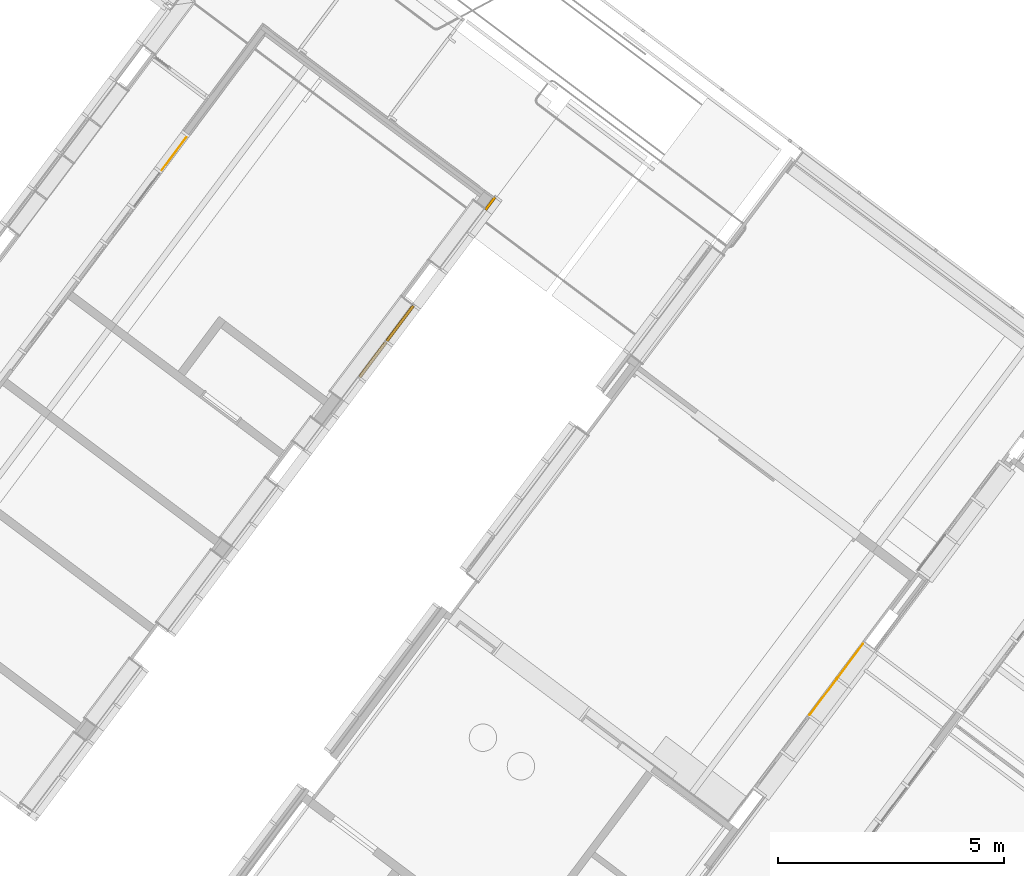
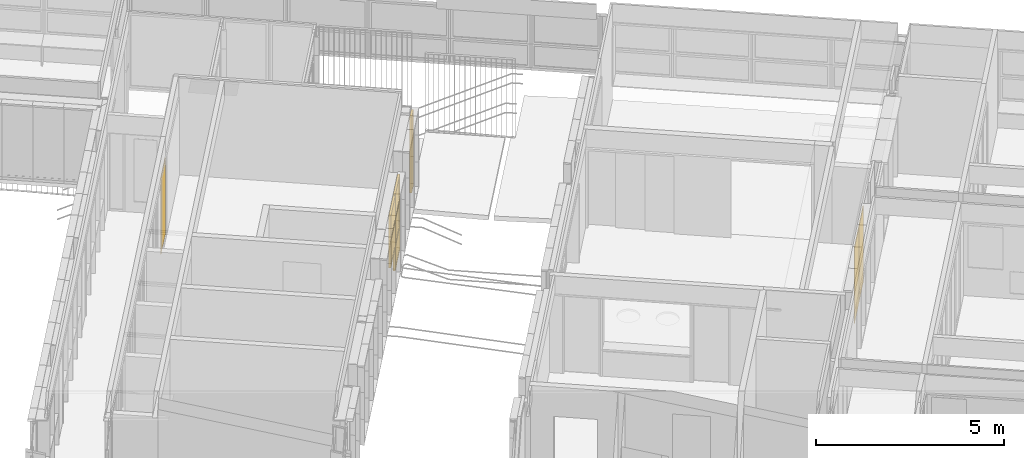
# One storey, part 167 of 243: 8 windows, 1 door, 3 elements without a shape of their own.
"""IFC2X3 building model written with IfcOpenShell, lengths in metres."""

from ifc_helpers import new_model, entity, si_unit, converted_unit, derived_unit, direction, frame, origin, origin_2d_with_axis, place, context, subcontext, project, spatial, rectangle, extrude, faceted_brep, source, transform, mapped, material, material_list, type_object, type_shapes, element, aggregate, save


model = new_model("IFC2X3")

# Units and contexts
model_context = context("Model", 3, precision=1e-05, world=origin(), true_north=direction((6.123031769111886e-17, 1.0)))
body_context = subcontext(model_context, "Body", "Model", "MODEL_VIEW")
ifc_project = project(units=[si_unit("LENGTHUNIT", "METRE"), si_unit("AREAUNIT", "SQUARE_METRE"), si_unit("VOLUMEUNIT", "CUBIC_METRE"), converted_unit("PLANEANGLEUNIT", "DEGREE", entity("IfcRatioMeasure", 0.017453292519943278), si_unit("PLANEANGLEUNIT", "RADIAN"), dimensions=[0, 0, 0, 0, 0, 0, 0]), si_unit("MASSUNIT", "GRAM", prefix="KILO"), derived_unit("MASSDENSITYUNIT", [(si_unit("MASSUNIT", "GRAM", prefix="KILO"), 1), (si_unit("LENGTHUNIT", "METRE"), -3)]), derived_unit("IONCONCENTRATIONUNIT", [(si_unit("MASSUNIT", "GRAM", prefix="KILO"), 1), (si_unit("LENGTHUNIT", "METRE"), -3)]), derived_unit("MOMENTOFINERTIAUNIT", [(si_unit("LENGTHUNIT", "METRE"), 4)]), si_unit("TIMEUNIT", "SECOND"), si_unit("FREQUENCYUNIT", "HERTZ"), si_unit("THERMODYNAMICTEMPERATUREUNIT", "DEGREE_CELSIUS"), derived_unit("THERMALTRANSMITTANCEUNIT", [(si_unit("MASSUNIT", "GRAM", prefix="KILO"), 1), (si_unit("THERMODYNAMICTEMPERATUREUNIT", "KELVIN"), -1), (si_unit("TIMEUNIT", "SECOND"), -3)]), derived_unit("THERMALCONDUCTANCEUNIT", [(si_unit("MASSUNIT", "GRAM", prefix="KILO"), 1), (si_unit("THERMODYNAMICTEMPERATUREUNIT", "KELVIN"), -1), (si_unit("TIMEUNIT", "SECOND"), -3), (si_unit("LENGTHUNIT", "METRE"), 1)]), derived_unit("VOLUMETRICFLOWRATEUNIT", [(si_unit("LENGTHUNIT", "METRE"), 3), (si_unit("TIMEUNIT", "SECOND"), -1)]), derived_unit("MASSFLOWRATEUNIT", [(si_unit("MASSUNIT", "GRAM", prefix="KILO"), 1), (si_unit("TIMEUNIT", "SECOND"), -1)]), derived_unit("ROTATIONALFREQUENCYUNIT", [(si_unit("TIMEUNIT", "SECOND"), -1)]), si_unit("ELECTRICCURRENTUNIT", "AMPERE"), si_unit("ELECTRICVOLTAGEUNIT", "VOLT"), si_unit("POWERUNIT", "WATT"), si_unit("FORCEUNIT", "NEWTON", prefix="KILO"), si_unit("ILLUMINANCEUNIT", "LUX"), si_unit("LUMINOUSFLUXUNIT", "LUMEN"), si_unit("LUMINOUSINTENSITYUNIT", "CANDELA"), derived_unit("USERDEFINED", [(si_unit("MASSUNIT", "GRAM", prefix="KILO"), -1), (si_unit("LENGTHUNIT", "METRE"), -2), (si_unit("TIMEUNIT", "SECOND"), 3), (si_unit("LUMINOUSFLUXUNIT", "LUMEN"), 1)]), derived_unit("USERDEFINED", [(si_unit("MASSUNIT", "GRAM", prefix="KILO"), 1), (si_unit("TIMEUNIT", "SECOND"), -3), (si_unit("LENGTHUNIT", "METRE"), 3), (si_unit("ELECTRICCURRENTUNIT", "AMPERE"), -2)]), derived_unit("SOUNDPOWERUNIT", [(si_unit("MASSUNIT", "GRAM", prefix="KILO"), 1), (si_unit("TIMEUNIT", "SECOND"), -3), (si_unit("LENGTHUNIT", "METRE"), 2)]), derived_unit("SOUNDPRESSUREUNIT", [(si_unit("MASSUNIT", "GRAM", prefix="KILO"), 1), (si_unit("LENGTHUNIT", "METRE"), -1), (si_unit("TIMEUNIT", "SECOND"), -2)]), derived_unit("LINEARVELOCITYUNIT", [(si_unit("LENGTHUNIT", "METRE"), 1), (si_unit("TIMEUNIT", "SECOND"), -1)]), si_unit("PRESSUREUNIT", "PASCAL"), derived_unit("USERDEFINED", [(si_unit("MASSUNIT", "GRAM", prefix="KILO"), 1), (si_unit("LENGTHUNIT", "METRE"), -2), (si_unit("TIMEUNIT", "SECOND"), -2)]), derived_unit("LINEARFORCEUNIT", [(si_unit("MASSUNIT", "GRAM", prefix="KILO"), 1), (si_unit("TIMEUNIT", "SECOND"), -2)]), derived_unit("PLANARFORCEUNIT", [(si_unit("MASSUNIT", "GRAM", prefix="KILO"), 1), (si_unit("LENGTHUNIT", "METRE"), -1), (si_unit("TIMEUNIT", "SECOND"), -2)]), derived_unit("SPECIFICHEATCAPACITYUNIT", [(si_unit("THERMODYNAMICTEMPERATUREUNIT", "KELVIN"), -1), (si_unit("LENGTHUNIT", "METRE"), 2), (si_unit("TIMEUNIT", "SECOND"), -2)]), derived_unit("HEATINGVALUEUNIT", [(si_unit("LENGTHUNIT", "METRE"), 2), (si_unit("TIMEUNIT", "SECOND"), -2)]), derived_unit("VAPORPERMEABILITYUNIT", [(si_unit("LENGTHUNIT", "METRE"), -1), (si_unit("TIMEUNIT", "SECOND"), 1)]), derived_unit("DYNAMICVISCOSITYUNIT", [(si_unit("MASSUNIT", "GRAM", prefix="KILO"), 1), (si_unit("TIMEUNIT", "SECOND"), -1), (si_unit("LENGTHUNIT", "METRE"), -1)]), derived_unit("THERMALEXPANSIONCOEFFICIENTUNIT", [(si_unit("THERMODYNAMICTEMPERATUREUNIT", "KELVIN"), -1)]), derived_unit("MODULUSOFELASTICITYUNIT", [(si_unit("MASSUNIT", "GRAM", prefix="KILO"), 1), (si_unit("LENGTHUNIT", "METRE"), -1), (si_unit("TIMEUNIT", "SECOND"), -2)]), derived_unit("ISOTHERMALMOISTURECAPACITYUNIT", [(si_unit("LENGTHUNIT", "METRE"), 3), (si_unit("MASSUNIT", "GRAM", prefix="KILO"), -1)]), derived_unit("MOISTUREDIFFUSIVITYUNIT", [(si_unit("TIMEUNIT", "SECOND"), -1), (si_unit("LENGTHUNIT", "METRE"), 2)])], contexts=[model_context])

# Site, building, storey
site_placement = place(None, frame((0.0, 0.0, 235.0), z_axis=(0.0, 0.0, 1.0), x_axis=(-0.7996477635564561, 0.6004693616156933, 0.0)))
site = spatial("IfcSite", under=ifc_project, at=site_placement, Name="Default", CompositionType="ELEMENT")
building_placement = place(site_placement, origin())
building = spatial("IfcBuilding", under=site, at=building_placement, CompositionType="ELEMENT")
storey_placement = place(building_placement, origin())
storey = spatial("IfcBuildingStorey", under=building, at=storey_placement, Name="P0- Escola", CompositionType="ELEMENT", Elevation=0.0)

# Curtain wall, window
curtain_wall_type_1 = type_object("IfcCurtainWallType", Name="Muro cortina:MC- INT- a2", PredefinedType="NOTDEFINED")
curtain_wall_1_placement = place(storey_placement, origin())
curtain_wall_1 = element("IfcCurtainWall", 1, at=curtain_wall_1_placement, inside=storey, type_object=curtain_wall_type_1, Name="Muro cortina:MC- INT- a2", ObjectType="Muro cortina:MC- INT- a2")
ifc_material_1 = material(Name="_Vidre")
window_style_1 = type_object("IfcWindowStyle", Name="MC- Fusta- vidre fix:MC- Fusta- vidre fix", ConstructionType="NOTDEFINED", OperationType="NOTDEFINED", ParameterTakesPrecedence=False, Sizeable=False, material=ifc_material_1)
shared_shape_1 = source(origin(), body_context, "Body", "SweptSolid", [
    extrude(rectangle(XDim=0.015999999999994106, YDim=0.9699999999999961, at=origin_2d_with_axis()), frame((0.0, 0.0, 0.0), z_axis=(0.0, 0.0, 1.0), x_axis=(0.0, -1.0, 0.0)), (0.0, 0.0, 1.0), 2.475),
])
type_shapes(window_style_1, [shared_shape_1])
window_1_placement = place(curtain_wall_1_placement, frame((34.62014768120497, -33.91519175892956, 0.045000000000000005), z_axis=(0.0, 0.0, 1.0), x_axis=(0.0, -1.0, 0.0)))
window_1 = element("IfcWindow", 2, at=window_1_placement, type_object=window_style_1, material=ifc_material_1, Name="MC- Fusta- vidre fix:MC- Fusta- vidre fix", ObjectType="MC- Fusta- vidre fix:MC- Fusta- vidre fix", OverallHeight=2.475, OverallWidth=0.9699999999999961, context=body_context, shape_type="MappedRepresentation", body=[
    mapped(shared_shape_1, transform((0.0, 0.0, 0.0), scale=1.0)),
])
aggregate(curtain_wall_1, [window_1])

# Curtain wall, windows
curtain_wall_type_2 = type_object("IfcCurtainWallType", Name="Muro cortina:MC- INT- a4", PredefinedType="NOTDEFINED")
curtain_wall_2_placement = place(storey_placement, origin())
curtain_wall_2 = element("IfcCurtainWall", 3, at=curtain_wall_2_placement, inside=storey, type_object=curtain_wall_type_2, Name="Muro cortina:MC- INT- a4", ObjectType="Muro cortina:MC- INT- a4")
window_style_2 = type_object("IfcWindowStyle", Name="MC- Fusta- vidre fix:MC- Fusta- vidre fix", ConstructionType="NOTDEFINED", OperationType="NOTDEFINED", ParameterTakesPrecedence=False, Sizeable=False, material=ifc_material_1)
shared_shape_2 = source(origin(), body_context, "Body", "SweptSolid", [
    extrude(rectangle(XDim=0.9399999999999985, YDim=0.015999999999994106, at=origin_2d_with_axis()), frame((0.0, 0.0, 0.0), z_axis=(0.0, 0.0, 1.0), x_axis=(-1.0, 0.0, 0.0)), (0.0, 0.0, 1.0), 2.475),
])
type_shapes(window_style_2, [shared_shape_2])
window_2_placement = place(curtain_wall_2_placement, frame((15.95514768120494, -33.92769085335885, 0.045), z_axis=(0.0, 0.0, 1.0), x_axis=(0.0, 1.0, 0.0)))
window_2 = element("IfcWindow", 4, at=window_2_placement, type_object=window_style_2, material=ifc_material_1, Name="MC- Fusta- vidre fix:MC- Fusta- vidre fix", ObjectType="MC- Fusta- vidre fix:MC- Fusta- vidre fix", OverallHeight=2.475, OverallWidth=0.9399999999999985, context=body_context, shape_type="MappedRepresentation", body=[
    mapped(shared_shape_2, transform((0.0, 0.0, 0.0), scale=1.0)),
])
window_style_3 = type_object("IfcWindowStyle", Name="MC- Fusta- vidre fix:MC- Fusta- vidre fix", ConstructionType="NOTDEFINED", OperationType="NOTDEFINED", ParameterTakesPrecedence=False, Sizeable=False, material=ifc_material_1)
shared_shape_3 = source(origin(), body_context, "Body", "SweptSolid", [
    extrude(rectangle(XDim=0.9974990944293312, YDim=0.015999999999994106, at=origin_2d_with_axis()), frame((0.0, 0.0, 0.0), z_axis=(0.0, 0.0, 1.0), x_axis=(-1.0, 0.0, 0.0)), (0.0, 0.0, 1.0), 2.475),
])
type_shapes(window_style_3, [shared_shape_3])
window_3_placement = place(curtain_wall_2_placement, frame((15.955147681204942, -32.928941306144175, 0.045), z_axis=(0.0, 0.0, 1.0), x_axis=(0.0, 1.0, 0.0)))
window_3 = element("IfcWindow", 5, at=window_3_placement, type_object=window_style_3, material=ifc_material_1, Name="MC- Fusta- vidre fix:MC- Fusta- vidre fix", ObjectType="MC- Fusta- vidre fix:MC- Fusta- vidre fix", OverallHeight=2.475, OverallWidth=0.9974990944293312, context=body_context, shape_type="MappedRepresentation", body=[
    mapped(shared_shape_3, transform((0.0, 0.0, 0.0), scale=1.0)),
])
aggregate(curtain_wall_2, [window_2, window_3])

# Curtain wall, windows, door
curtain_wall_type_3 = type_object("IfcCurtainWallType", Name="Muro cortina:MC- EXT- MC2", PredefinedType="NOTDEFINED")
curtain_wall_3_placement = place(storey_placement, origin())
curtain_wall_3 = element("IfcCurtainWall", 6, at=curtain_wall_3_placement, inside=storey, type_object=curtain_wall_type_3, Name="Muro cortina:MC- EXT- MC2", ObjectType="Muro cortina:MC- EXT- MC2")
ifc_material_2 = material(Name="_Alumini- T1- Perfil")
ifc_material_list_1 = material_list([ifc_material_1, ifc_material_2])
window_style_4 = type_object("IfcWindowStyle", Name="MC- Alu- Conjunt vidre fix- 62x60 cm:MC- Alu- Conjunt vidre fix- 62x60 cm", ConstructionType="NOTDEFINED", OperationType="NOTDEFINED", ParameterTakesPrecedence=False, Sizeable=False, material=ifc_material_list_1)
shared_shape_4 = source(origin(), body_context, "Body", "Brep", [
    faceted_brep([(0.4361932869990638, -0.007600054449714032, 0.048806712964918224), (0.4361932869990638, -0.03160022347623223, 0.048806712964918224), (-0.4361932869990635, -0.03160022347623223, 0.048806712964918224), (-0.4361932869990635, -0.007600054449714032, 0.048806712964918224), (0.4361932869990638, -0.007600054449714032, 0.7387000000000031), (-0.4361932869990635, -0.007600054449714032, 0.7387000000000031), (-0.4361932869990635, -0.03160022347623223, 0.7387000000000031), (0.4361932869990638, -0.03160022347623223, 0.7387000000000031)], [[[0, 1, 2, 3]], [[4, 0, 3, 5]], [[5, 3, 2, 6]], [[6, 2, 1, 7]], [[7, 1, 0, 4]], [[4, 5, 6, 7]]]),
    faceted_brep([(0.48499999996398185, -0.05999999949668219, 0.7877000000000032), (0.48499999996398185, -0.05999999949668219, 0.0), (0.48499999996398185, 0.0, 0.0), (0.48499999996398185, 0.0, 0.787700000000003), (-0.48499999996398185, 0.0, 0.7877000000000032), (-0.48499999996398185, 0.0, 0.0), (0.4221931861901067, 0.0, 0.7248931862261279), (-0.42219318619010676, 0.0, 0.724893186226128), (-0.4221931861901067, 0.0, 0.0628068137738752), (0.4221931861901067, 0.0, 0.06280681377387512), (-0.48499999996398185, -0.05999999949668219, 0.0), (-0.48499999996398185, -0.05999999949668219, 0.7877000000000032), (-0.42219603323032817, -0.05999999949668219, 0.7248960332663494), (0.42219603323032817, -0.05999999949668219, 0.7248960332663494), (0.42219603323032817, -0.05999999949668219, 0.0628039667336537), (-0.42219603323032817, -0.05999999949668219, 0.0628039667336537), (0.4221960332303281, -0.03160022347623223, 0.7248960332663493), (0.42219603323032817, -0.03160022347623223, 0.0628039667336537), (-0.42219603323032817, -0.03160022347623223, 0.06280396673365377), (-0.42219603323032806, -0.03160022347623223, 0.7248960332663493), (-0.43619328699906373, -0.03160022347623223, 0.738893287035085), (0.43619328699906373, -0.03160022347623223, 0.738893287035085), (0.43619328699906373, -0.03160022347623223, 0.048806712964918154), (-0.43619328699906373, -0.03160022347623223, 0.04880671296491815), (0.43619328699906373, -0.007600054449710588, 0.738893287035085), (0.43619328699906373, -0.007600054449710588, 0.04880671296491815), (-0.43619328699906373, -0.007600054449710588, 0.048806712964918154), (-0.43619328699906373, -0.007600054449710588, 0.738893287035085), (-0.42219318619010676, -0.007600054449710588, 0.724893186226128), (0.42219318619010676, -0.007600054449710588, 0.724893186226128), (0.42219318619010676, -0.007600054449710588, 0.06280681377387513), (-0.42219318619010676, -0.007600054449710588, 0.06280681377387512)], [[[0, 1, 2, 3]], [[4, 3, 2, 5], [6, 7, 8, 9]], [[1, 10, 5, 2]], [[0, 11, 10, 1], [12, 13, 14, 15]], [[16, 17, 14, 13]], [[17, 18, 15, 14]], [[16, 19, 18, 17], [20, 21, 22, 23]], [[24, 25, 22, 21]], [[25, 26, 23, 22]], [[24, 27, 26, 25], [28, 29, 30, 31]], [[6, 9, 30, 29]], [[9, 8, 31, 30]], [[10, 11, 4, 5]], [[18, 19, 12, 15]], [[26, 27, 20, 23]], [[8, 7, 28, 31]], [[11, 0, 3, 4]], [[19, 16, 13, 12]], [[27, 24, 21, 20]], [[7, 6, 29, 28]]], outer=[[True], [True, False], [True], [True, False], [True], [True], [False, True], [True], [True], [True, False], [True], [True], [True], [True], [True], [True], [True], [True], [True], [True]]),
])
type_shapes(window_style_4, [shared_shape_4])
window_4_placement = place(curtain_wall_3_placement, frame((28.34514768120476, -33.91519175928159, 0.03229999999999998), z_axis=(0.0, 0.0, 1.0), x_axis=(0.0, 1.0, 0.0)))
window_4 = element("IfcWindow", 7, at=window_4_placement, type_object=window_style_4, material=ifc_material_list_1, Name="MC- Alu- Conjunt vidre fix- 62x60 cm:MC- Alu- Conjunt vidre fix- 62x60 cm", ObjectType="MC- Alu- Conjunt vidre fix- 62x60 cm:MC- Alu- Conjunt vidre fix- 62x60 cm", OverallHeight=0.7877000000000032, OverallWidth=0.9699999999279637, context=body_context, shape_type="MappedRepresentation", body=[
    mapped(shared_shape_4, transform((0.0, 0.0, 0.0), scale=1.0)),
])
window_style_5 = type_object("IfcWindowStyle", Name="MC- Alu- Conjunt finestra basculant- 68x68 cm:MC- Alu- Conjunt finestra basculant- 68x68 cm", ConstructionType="NOTDEFINED", OperationType="NOTDEFINED", ParameterTakesPrecedence=False, Sizeable=False, material=ifc_material_list_1)
shared_shape_5 = source(origin(), body_context, "Body", "Brep", [
    faceted_brep([(0.43291170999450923, -0.03559830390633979, 0.051999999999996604), (-0.43291170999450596, -0.03559830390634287, 0.051999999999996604), (-0.43291170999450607, -0.011598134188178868, 0.051999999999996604), (0.43291170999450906, -0.011598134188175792, 0.051999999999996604), (0.43291170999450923, -0.035598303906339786, 0.8228027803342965), (0.43291170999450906, -0.011598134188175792, 0.8228027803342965), (-0.43291170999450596, -0.011598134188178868, 0.8228027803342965), (-0.43291170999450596, -0.03559830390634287, 0.8228027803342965)], [[[0, 1, 2, 3]], [[4, 0, 3, 5]], [[5, 3, 2, 6]], [[6, 2, 1, 7]], [[7, 1, 0, 4]], [[4, 5, 6, 7]]]),
    faceted_brep([(-0.4172108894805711, -0.009998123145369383, 0.8071019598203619), (-0.4172108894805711, -0.00999812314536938, 0.06789804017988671), (-0.4172108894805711, -0.007998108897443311, 0.06789804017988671), (-0.4172108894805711, -0.007998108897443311, 0.8071019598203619), (-0.44610892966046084, -0.007998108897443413, 0.8360000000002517), (0.44610892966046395, -0.007998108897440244, 0.8360000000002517), (0.44610892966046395, -0.007998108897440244, 0.03899999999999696), (-0.44610892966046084, -0.007998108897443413, 0.03899999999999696), (0.4172108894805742, -0.007998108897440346, 0.8071019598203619), (0.4172108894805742, -0.007998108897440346, 0.06789804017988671), (0.4172108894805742, -0.009998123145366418, 0.06789804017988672), (0.4172108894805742, -0.009998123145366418, 0.8071019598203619), (0.4329117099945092, -0.00999812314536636, 0.8228027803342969), (-0.43291170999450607, -0.009998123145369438, 0.8228027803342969), (-0.43291170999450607, -0.009998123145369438, 0.05219721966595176), (0.4329117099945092, -0.00999812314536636, 0.052197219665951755), (-0.4329117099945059, -0.04079986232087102, 0.8228027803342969), (-0.4329117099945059, -0.04079986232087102, 0.052197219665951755), (0.4329117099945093, -0.04079986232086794, 0.05219721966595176), (0.4329117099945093, -0.04079986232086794, 0.8228027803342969), (0.41721088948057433, -0.040799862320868, 0.8071019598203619), (-0.41721088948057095, -0.04079986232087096, 0.8071019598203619), (-0.41721088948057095, -0.04079986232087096, 0.06789804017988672), (0.41721088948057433, -0.040799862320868, 0.06789804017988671), (-0.4172108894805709, -0.06800005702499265, 0.8071019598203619), (-0.4172108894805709, -0.06800005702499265, 0.06789804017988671), (0.4172108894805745, -0.0680000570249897, 0.06789804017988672), (0.4172108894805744, -0.0680000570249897, 0.8071019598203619), (0.4636128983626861, -0.06800005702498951, 0.8535039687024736), (-0.4636128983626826, -0.06800005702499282, 0.8535039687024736), (-0.4636128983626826, -0.06800005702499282, 0.021496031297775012), (0.4636128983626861, -0.06800005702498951, 0.021496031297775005), (-0.4636128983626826, -0.0645000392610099, 0.8535039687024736), (-0.4636128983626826, -0.06450003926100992, 0.021496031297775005), (0.4636128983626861, -0.06450003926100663, 0.021496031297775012), (0.4636128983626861, -0.06450003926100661, 0.8535039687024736), (0.44610892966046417, -0.06450003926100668, 0.8360000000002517), (-0.4461089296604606, -0.06450003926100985, 0.8360000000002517), (-0.4461089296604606, -0.06450003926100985, 0.03899999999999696), (0.44610892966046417, -0.06450003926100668, 0.038999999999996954)], [[[0, 1, 2, 3]], [[4, 5, 6, 7], [8, 3, 2, 9]], [[1, 10, 9, 2]], [[0, 11, 10, 1], [12, 13, 14, 15]], [[16, 17, 14, 13]], [[17, 18, 15, 14]], [[16, 19, 18, 17], [20, 21, 22, 23]], [[24, 25, 22, 21]], [[25, 26, 23, 22]], [[24, 27, 26, 25], [28, 29, 30, 31]], [[32, 33, 30, 29]], [[33, 34, 31, 30]], [[32, 35, 34, 33], [36, 37, 38, 39]], [[4, 7, 38, 37]], [[7, 6, 39, 38]], [[10, 11, 8, 9]], [[18, 19, 12, 15]], [[26, 27, 20, 23]], [[34, 35, 28, 31]], [[6, 5, 36, 39]], [[11, 0, 3, 8]], [[19, 16, 13, 12]], [[27, 24, 21, 20]], [[35, 32, 29, 28]], [[5, 4, 37, 36]]], outer=[[True], [True, False], [True], [False, True], [True], [True], [True, False], [True], [True], [False, True], [True], [True], [True, False], [True], [True], [True], [True], [True], [True], [True], [True], [True], [True], [True], [True]]),
    faceted_brep([(0.42219318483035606, 0.0, 0.8121931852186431), (0.42219318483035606, 0.0, 0.06280681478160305), (0.42219318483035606, -0.0040000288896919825, 0.06280681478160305), (0.42219318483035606, -0.0040000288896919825, 0.8121931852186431), (-0.42219318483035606, -0.0040000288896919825, 0.8121931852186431), (-0.42219318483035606, -0.0040000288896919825, 0.06280681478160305), (0.4575998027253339, -0.0040000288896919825, 0.8475998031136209), (-0.4575998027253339, -0.0040000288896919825, 0.8475998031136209), (-0.4575998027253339, -0.0040000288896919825, 0.027400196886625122), (0.4575998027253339, -0.0040000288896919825, 0.02740019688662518), (-0.42219318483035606, 0.0, 0.06280681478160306), (-0.42219318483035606, 0.0, 0.8121931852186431), (-0.48499999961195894, 0.0, 0.875000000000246), (0.48499999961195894, 0.0, 0.875000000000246), (0.48499999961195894, 0.0, 0.0), (-0.48499999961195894, 0.0, 0.0), (0.48499999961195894, -0.05999999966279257, 0.875000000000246), (0.48499999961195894, -0.05999999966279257, 0.0), (-0.48499999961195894, -0.05999999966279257, 0.0), (-0.48499999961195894, -0.05999999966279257, 0.875000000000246), (-0.4575998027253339, -0.05999999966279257, 0.8475998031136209), (0.4575998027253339, -0.05999999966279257, 0.8475998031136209), (0.4575998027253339, -0.05999999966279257, 0.027400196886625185), (-0.4575998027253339, -0.05999999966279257, 0.02740019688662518)], [[[0, 1, 2, 3]], [[4, 3, 2, 5], [6, 7, 8, 9]], [[1, 10, 5, 2]], [[0, 11, 10, 1], [12, 13, 14, 15]], [[16, 17, 14, 13]], [[17, 18, 15, 14]], [[16, 19, 18, 17], [20, 21, 22, 23]], [[6, 9, 22, 21]], [[9, 8, 23, 22]], [[10, 11, 4, 5]], [[18, 19, 12, 15]], [[8, 7, 20, 23]], [[11, 0, 3, 4]], [[19, 16, 13, 12]], [[7, 6, 21, 20]]], outer=[[True], [False, True], [True], [False, True], [True], [True], [True, False], [True], [True], [True], [True], [True], [True], [True], [True]]),
])
type_shapes(window_style_5, [shared_shape_5])
window_5_placement = place(curtain_wall_3_placement, frame((28.34514768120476, -32.915191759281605, 0.8200000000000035), z_axis=(0.0, 0.0, 1.0), x_axis=(0.0, 1.0, 0.0)))
window_5 = element("IfcWindow", 8, at=window_5_placement, type_object=window_style_5, material=ifc_material_list_1, Name="MC- Alu- Conjunt finestra basculant- 68x68 cm:MC- Alu- Conjunt finestra basculant- 68x68 cm", ObjectType="MC- Alu- Conjunt finestra basculant- 68x68 cm:MC- Alu- Conjunt finestra basculant- 68x68 cm", OverallHeight=0.8750000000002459, OverallWidth=0.9699999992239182, context=body_context, shape_type="MappedRepresentation", body=[
    mapped(shared_shape_5, transform((0.0, 0.0, 0.0), scale=1.0)),
])
window_6_placement = place(curtain_wall_3_placement, frame((28.34514768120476, -33.91519175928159, 0.8200000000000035), z_axis=(0.0, 0.0, 1.0), x_axis=(0.0, 1.0, 0.0)))
window_6 = element("IfcWindow", 9, at=window_6_placement, type_object=window_style_5, material=ifc_material_list_1, Name="MC- Alu- Conjunt finestra basculant- 68x68 cm:MC- Alu- Conjunt finestra basculant- 68x68 cm", ObjectType="MC- Alu- Conjunt finestra basculant- 68x68 cm:MC- Alu- Conjunt finestra basculant- 68x68 cm", OverallHeight=0.8750000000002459, OverallWidth=0.9699999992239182, context=body_context, shape_type="MappedRepresentation", body=[
    mapped(shared_shape_5, transform((0.0, 0.0, 0.0), scale=1.0)),
])
window_style_6 = type_object("IfcWindowStyle", Name="MC- Alu- Conjunt finestra basculant- 68x68 cm:MC- Alu- Conjunt finestra basculant- 68x68 cm", ConstructionType="NOTDEFINED", OperationType="NOTDEFINED", ParameterTakesPrecedence=False, Sizeable=False, material=ifc_material_list_1)
shared_shape_6 = source(origin(), body_context, "Body", "Brep", [
    faceted_brep([(0.432911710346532, -0.03559830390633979, 0.051999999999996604), (-0.43291171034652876, -0.03559830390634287, 0.051999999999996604), (-0.4329117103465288, -0.011598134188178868, 0.051999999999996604), (0.43291171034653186, -0.011598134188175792, 0.051999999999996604), (0.432911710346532, -0.035598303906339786, 0.7565527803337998), (0.43291171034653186, -0.011598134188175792, 0.7565527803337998), (-0.43291171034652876, -0.011598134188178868, 0.7565527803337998), (-0.43291171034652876, -0.03559830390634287, 0.7565527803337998)], [[[0, 1, 2, 3]], [[4, 0, 3, 5]], [[5, 3, 2, 6]], [[6, 2, 1, 7]], [[7, 1, 0, 4]], [[4, 5, 6, 7]]]),
    faceted_brep([(-0.41721088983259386, -0.009998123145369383, 0.7408519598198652), (-0.41721088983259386, -0.00999812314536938, 0.06789804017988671), (-0.41721088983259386, -0.007998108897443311, 0.06789804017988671), (-0.41721088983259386, -0.007998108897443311, 0.7408519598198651), (-0.4461089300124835, -0.007998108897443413, 0.7697499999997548), (0.44610893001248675, -0.007998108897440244, 0.7697499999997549), (0.4461089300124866, -0.007998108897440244, 0.03899999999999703), (-0.44610893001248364, -0.007998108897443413, 0.03899999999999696), (0.41721088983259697, -0.007998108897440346, 0.7408519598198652), (0.41721088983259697, -0.007998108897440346, 0.06789804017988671), (0.41721088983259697, -0.009998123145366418, 0.06789804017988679), (0.41721088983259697, -0.009998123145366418, 0.7408519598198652), (0.4329117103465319, -0.00999812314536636, 0.7565527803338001), (-0.4329117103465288, -0.009998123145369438, 0.7565527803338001), (-0.4329117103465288, -0.009998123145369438, 0.05219721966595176), (0.4329117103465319, -0.00999812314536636, 0.052197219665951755), (-0.4329117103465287, -0.04079986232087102, 0.7565527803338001), (-0.4329117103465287, -0.04079986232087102, 0.052197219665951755), (0.4329117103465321, -0.04079986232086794, 0.05219721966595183), (0.4329117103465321, -0.04079986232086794, 0.7565527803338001), (0.41721088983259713, -0.040799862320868, 0.7408519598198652), (-0.41721088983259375, -0.04079986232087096, 0.7408519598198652), (-0.41721088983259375, -0.04079986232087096, 0.06789804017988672), (0.41721088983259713, -0.040799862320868, 0.06789804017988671), (-0.4172108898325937, -0.06800005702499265, 0.7408519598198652), (-0.4172108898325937, -0.06800005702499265, 0.06789804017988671), (0.41721088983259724, -0.0680000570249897, 0.06789804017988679), (0.4172108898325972, -0.0680000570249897, 0.7408519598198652), (0.4636128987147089, -0.06800005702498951, 0.7872539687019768), (-0.46361289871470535, -0.06800005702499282, 0.7872539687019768), (-0.46361289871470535, -0.06800005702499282, 0.021496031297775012), (0.4636128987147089, -0.06800005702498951, 0.021496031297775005), (-0.46361289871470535, -0.0645000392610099, 0.7872539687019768), (-0.46361289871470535, -0.06450003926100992, 0.021496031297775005), (0.4636128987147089, -0.06450003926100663, 0.02149603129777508), (0.4636128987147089, -0.06450003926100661, 0.7872539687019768), (0.4461089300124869, -0.06450003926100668, 0.7697499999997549), (-0.4461089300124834, -0.06450003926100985, 0.7697499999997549), (-0.4461089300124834, -0.06450003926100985, 0.03899999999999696), (0.4461089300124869, -0.06450003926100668, 0.038999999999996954)], [[[0, 1, 2, 3]], [[4, 5, 6, 7], [8, 3, 2, 9]], [[1, 10, 9, 2]], [[0, 11, 10, 1], [12, 13, 14, 15]], [[16, 17, 14, 13]], [[17, 18, 15, 14]], [[16, 19, 18, 17], [20, 21, 22, 23]], [[24, 25, 22, 21]], [[25, 26, 23, 22]], [[24, 27, 26, 25], [28, 29, 30, 31]], [[32, 33, 30, 29]], [[33, 34, 31, 30]], [[32, 35, 34, 33], [36, 37, 38, 39]], [[4, 7, 38, 37]], [[7, 6, 39, 38]], [[10, 11, 8, 9]], [[18, 19, 12, 15]], [[26, 27, 20, 23]], [[34, 35, 28, 31]], [[6, 5, 36, 39]], [[11, 0, 3, 8]], [[19, 16, 13, 12]], [[27, 24, 21, 20]], [[35, 32, 29, 28]], [[5, 4, 37, 36]]], outer=[[True], [True, False], [True], [False, True], [True], [True], [True, False], [True], [True], [False, True], [True], [True], [True, False], [True], [True], [True], [True], [True], [True], [True], [True], [True], [True], [True], [True]]),
    faceted_brep([(0.4221931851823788, 0.0, 0.7459431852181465), (0.4221931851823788, 0.0, 0.06280681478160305), (0.4221931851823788, -0.0040000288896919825, 0.06280681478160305), (0.4221931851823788, -0.0040000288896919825, 0.7459431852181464), (-0.4221931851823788, -0.0040000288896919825, 0.7459431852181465), (-0.4221931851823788, -0.0040000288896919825, 0.06280681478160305), (0.4575998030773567, -0.0040000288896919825, 0.7813498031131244), (-0.4575998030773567, -0.0040000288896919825, 0.7813498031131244), (-0.4575998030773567, -0.0040000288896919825, 0.027400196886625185), (0.4575998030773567, -0.0040000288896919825, 0.02740019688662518), (-0.4221931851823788, 0.0, 0.06280681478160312), (-0.4221931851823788, 0.0, 0.7459431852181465), (-0.48499999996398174, 0.0, 0.8087499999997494), (0.48499999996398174, 0.0, 0.8087499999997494), (0.48499999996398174, 0.0, 0.0), (-0.48499999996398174, 0.0, 0.0), (0.48499999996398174, -0.05999999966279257, 0.8087499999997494), (0.48499999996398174, -0.05999999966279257, 0.0), (-0.48499999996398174, -0.05999999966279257, 0.0), (-0.48499999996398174, -0.05999999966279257, 0.8087499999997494), (-0.4575998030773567, -0.05999999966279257, 0.7813498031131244), (0.4575998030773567, -0.05999999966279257, 0.7813498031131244), (0.4575998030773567, -0.05999999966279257, 0.027400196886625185), (-0.4575998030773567, -0.05999999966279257, 0.02740019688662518)], [[[0, 1, 2, 3]], [[4, 3, 2, 5], [6, 7, 8, 9]], [[1, 10, 5, 2]], [[0, 11, 10, 1], [12, 13, 14, 15]], [[16, 17, 14, 13]], [[17, 18, 15, 14]], [[16, 19, 18, 17], [20, 21, 22, 23]], [[6, 9, 22, 21]], [[9, 8, 23, 22]], [[10, 11, 4, 5]], [[18, 19, 12, 15]], [[8, 7, 20, 23]], [[11, 0, 3, 4]], [[19, 16, 13, 12]], [[7, 6, 21, 20]]], outer=[[True], [False, True], [True], [False, True], [True], [True], [True, False], [True], [True], [True], [True], [True], [True], [True], [True]]),
])
type_shapes(window_style_6, [shared_shape_6])
window_7_placement = place(curtain_wall_3_placement, frame((28.34514768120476, -32.91519175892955, 1.6950000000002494), z_axis=(0.0, 0.0, 1.0), x_axis=(0.0, 1.0, 0.0)))
window_7 = element("IfcWindow", 10, at=window_7_placement, type_object=window_style_6, material=ifc_material_list_1, Name="MC- Alu- Conjunt finestra basculant- 68x68 cm:MC- Alu- Conjunt finestra basculant- 68x68 cm", ObjectType="MC- Alu- Conjunt finestra basculant- 68x68 cm:MC- Alu- Conjunt finestra basculant- 68x68 cm", OverallHeight=0.8087499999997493, OverallWidth=0.9699999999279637, context=body_context, shape_type="MappedRepresentation", body=[
    mapped(shared_shape_6, transform((0.0, 0.0, 0.0), scale=1.0)),
])
window_8_placement = place(curtain_wall_3_placement, frame((28.34514768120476, -33.91519175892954, 1.6950000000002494), z_axis=(0.0, 0.0, 1.0), x_axis=(0.0, 1.0, 0.0)))
window_8 = element("IfcWindow", 11, at=window_8_placement, type_object=window_style_6, material=ifc_material_list_1, Name="MC- Alu- Conjunt finestra basculant- 68x68 cm:MC- Alu- Conjunt finestra basculant- 68x68 cm", ObjectType="MC- Alu- Conjunt finestra basculant- 68x68 cm:MC- Alu- Conjunt finestra basculant- 68x68 cm", OverallHeight=0.8087499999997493, OverallWidth=0.9699999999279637, context=body_context, shape_type="MappedRepresentation", body=[
    mapped(shared_shape_6, transform((0.0, 0.0, 0.0), scale=1.0)),
])
ifc_material_3 = material(Name="_Aillament")
ifc_material_list_2 = material_list([ifc_material_2, ifc_material_3])
door_style = type_object("IfcDoorStyle", Name="MC- Alu- panell especific xapa:MC- Alu- panell especific xapa", ConstructionType="NOTDEFINED", OperationType="NOTDEFINED", ParameterTakesPrecedence=False, Sizeable=False, material=ifc_material_list_2)
shared_shape_7 = source(origin(), body_context, "Body", "SweptSolid", [
    extrude(rectangle(XDim=0.005999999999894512, YDim=0.3464999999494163, at=origin_2d_with_axis()), frame((0.0, -0.057000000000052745, 0.0), z_axis=(0.0, 0.0, 1.0), x_axis=(0.0, -1.0, 0.0)), (0.0, 0.0, 1.0), 2.471449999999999),
    extrude(rectangle(XDim=0.34649999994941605, YDim=0.048000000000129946, at=origin_2d_with_axis()), frame((0.0, -0.030000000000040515, 0.0)), (0.0, 0.0, 1.0), 2.471449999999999),
    extrude(rectangle(XDim=0.005999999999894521, YDim=0.3464999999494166, at=origin_2d_with_axis()), frame((0.0, -0.003000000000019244, 0.0), z_axis=(0.0, 0.0, 1.0), x_axis=(0.0, -1.0, 0.0)), (0.0, 0.0, 1.0), 2.471449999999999),
])
type_shapes(door_style, [shared_shape_7])
door_placement = place(curtain_wall_3_placement, frame((28.345147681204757, -37.2269417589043, 0.03229999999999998), z_axis=(0.0, 0.0, 1.0), x_axis=(0.0, 1.0, 0.0)))
door = element("IfcDoor", 12, at=door_placement, type_object=door_style, material=ifc_material_list_2, Name="MC- Alu- panell especific xapa:MC- Alu- panell especific xapa", ObjectType="MC- Alu- panell especific xapa:MC- Alu- panell especific xapa", OverallHeight=2.471449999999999, OverallWidth=0.34649999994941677, context=body_context, shape_type="MappedRepresentation", body=[
    mapped(shared_shape_7, transform((0.0, 0.0, 0.0), scale=1.0)),
])
aggregate(curtain_wall_3, [window_4, door, window_5, window_6, window_7, window_8])

save(model, "model.ifc")
